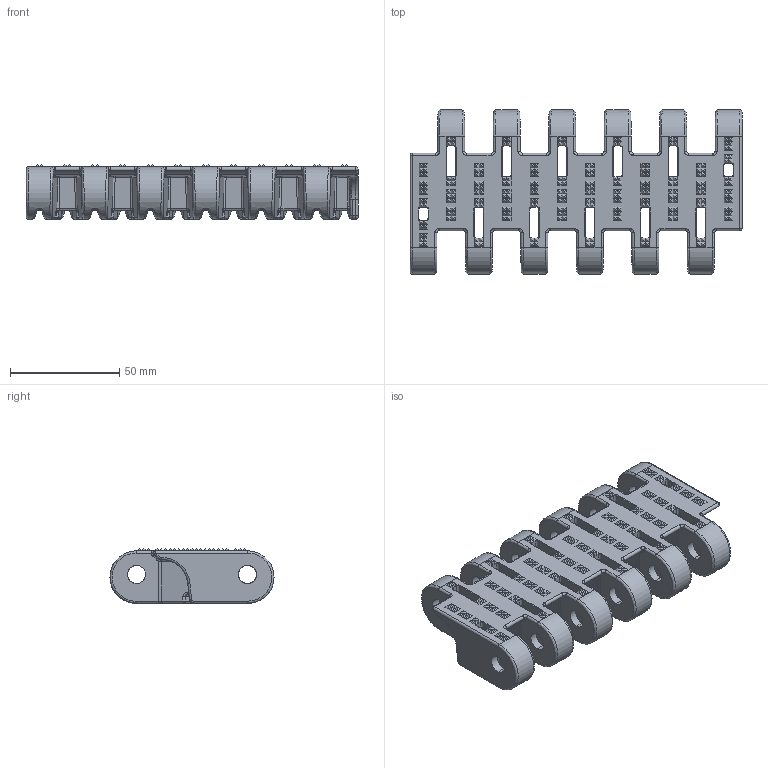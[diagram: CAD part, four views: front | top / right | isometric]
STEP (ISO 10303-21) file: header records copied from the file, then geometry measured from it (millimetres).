
FILE_DESCRIPTION((''),'2;1');
FILE_NAME('P1313','2013-06-12T',('mth'),(''),'PRO/ENGINEER BY PARAMETRIC TECHNOLOGY CORPORATION, 2013050','PRO/ENGINEER BY PARAMETRIC TECHNOLOGY CORPORATION, 2013050','');
FILE_SCHEMA(('CONFIG_CONTROL_DESIGN'));
Products named in the file (1): P1313
Bounding box: 152 x 75.15 x 25 mm (x, y, z)
Volume: 93432.1 mm3; surface area: 53528.4 mm2
Topology: 1 solids, 1 shells, 2932 faces, 6480 edges, 3540 vertices
Faces by surface type: plane 1302, cylinder 776, bspline 693, torus 103, sphere 58
Entity records: 141247 total; most frequent: CARTESIAN_POINT 82689, ORIENTED_EDGE 12960, DIRECTION 10804, EDGE_CURVE 6480, AXIS2_PLACEMENT_3D 3715, VERTEX_POINT 3540, VECTOR 3374, LINE 3374
